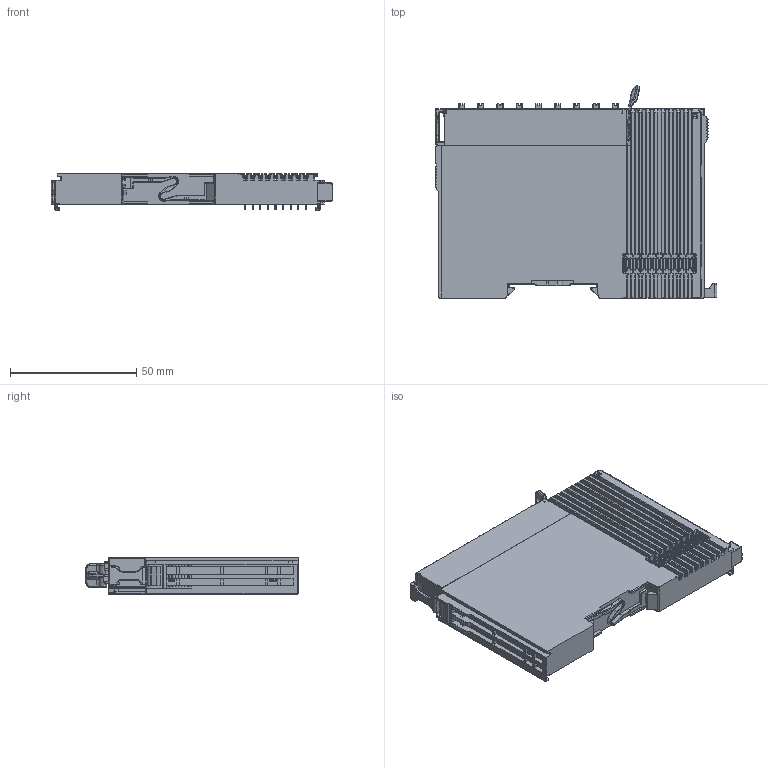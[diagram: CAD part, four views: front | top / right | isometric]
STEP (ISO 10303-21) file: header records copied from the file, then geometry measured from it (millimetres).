
FILE_DESCRIPTION((''),'2;1');
FILE_NAME('ASM0016_ASM','2024-05-29T15:18:53',('Administrator'),(''),'CREO PARAMETRIC BY PTC INC, 2018050','CREO PARAMETRIC BY PTC INC, 2018050','');
FILE_SCHEMA(('AUTOMOTIVE_DESIGN { 1 0 10303 214 1 1 1 1 }'));
Products named in the file (3): 666_1_1_2_3; PRT0014; ASM0016_ASM
Assembly tree (2 placements, depth 2):
  ASM0016_ASM
    666_1_1_2_3
    PRT0014
Bounding box: 111.5 x 83.96 x 14.45 mm (x, y, z)
Volume: 84863 mm3; surface area: 45601 mm2
Topology: 2 solids, 10 shells, 6734 faces, 18532 edges, 11741 vertices
Faces by surface type: plane 4025, cylinder 2024, torus 319, bspline 165, sphere 159, cone 42
Entity records: 273609 total; most frequent: CARTESIAN_POINT 57953, ORIENTED_EDGE 36730, DIRECTION 34849, EDGE_CURVE 18371, VECTOR 12935, LINE 12935, VERTEX_POINT 11741, AXIS2_PLACEMENT_3D 10957
